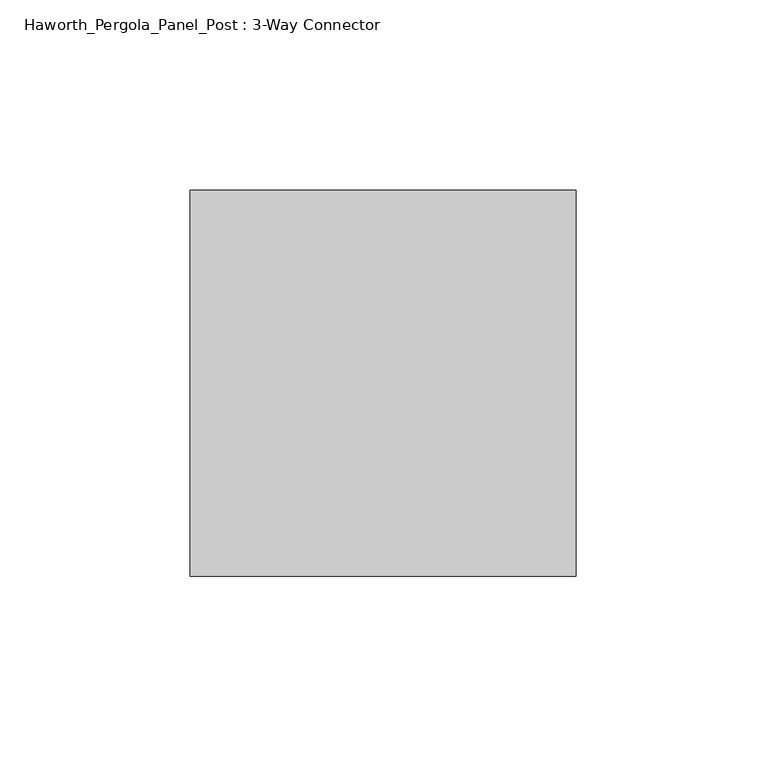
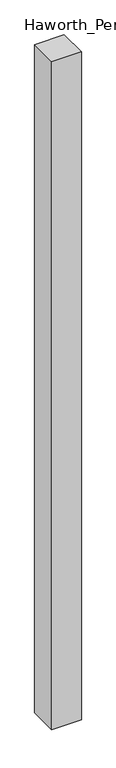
"""IFC4 building model written with IfcOpenShell, lengths in millimetres: furniture geometry, Haworth_Pergola_Panel_Post : 3-Way Connector."""

from ifc_helpers import new_model, si_unit, point, frame, frame_2d, origin, origin_with_axes, place, context, project, spatial, polyline, circle_curve, trimmed, segment, composite_curve, outline, extrude, source, transform, mapped, element, save


def haworth_pergola_panel_post_3_way_connector_7bc44f38(model_context):
    return source(origin(), model_context, "Body", "SweptSolid", [
        extrude(outline(polyline([(88.9, 50.8), (88.9, -50.8), (-12.7, -50.8), (-12.7, 50.8), (88.9, 50.8)])), frame((0.0, 0.0, 12.7), z_axis=(0.0, 0.0, 1.0), x_axis=(1.0, 0.0, 0.0)), (0.0, 0.0, 1.0), 2425.7),
        extrude(outline(composite_curve([segment(trimmed(circle_curve(frame_2d((38.1, 0.0)), 19.0499983), [point((19.0500017, 0.0))], [point((57.1499983, 0.0))], False, "CARTESIAN"), True, "CONTINUOUS"), segment(trimmed(circle_curve(frame_2d((38.1, 0.0)), 19.0499983), [point((57.1499983, 0.0))], [point((19.0500017, 0.0))], False, "CARTESIAN"), True, "CONTINUOUS")], self_intersect=False)), origin_with_axes(), (0.0, 0.0, 1.0), 12.7),
    ])


if __name__ == "__main__":
    model = new_model("IFC4")
    model_context = context("Model", 3, world=origin())
    ifc_project = project(units=[si_unit("LENGTHUNIT", "METRE", prefix="MILLI")], contexts=[model_context])
    site = spatial("IfcSite", under=ifc_project)
    building = spatial("IfcBuilding", under=site)
    placement = place(None, origin())
    haworth_pergola_panel_post_3_way_connector_shape = haworth_pergola_panel_post_3_way_connector_7bc44f38(model_context)
    element("IfcFurniture", 1, ObjectType="Haworth_Pergola_Panel_Post : 3-Way Connector", at=placement, inside=building, context=model_context, shape_type="MappedRepresentation", body=[
        mapped(haworth_pergola_panel_post_3_way_connector_shape, transform((0.0, 0.0, 0.0), x_axis=(1.0, 0.0, 0.0), y_axis=(0.0, 1.0, 0.0), z_axis=(0.0, 0.0, 1.0))),
    ])
    save(model, "model.ifc")
